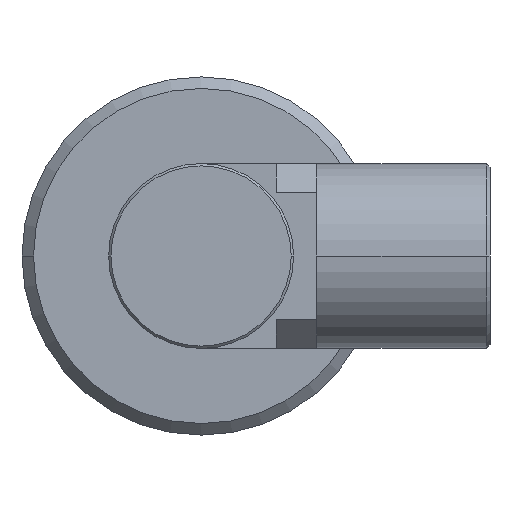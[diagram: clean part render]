
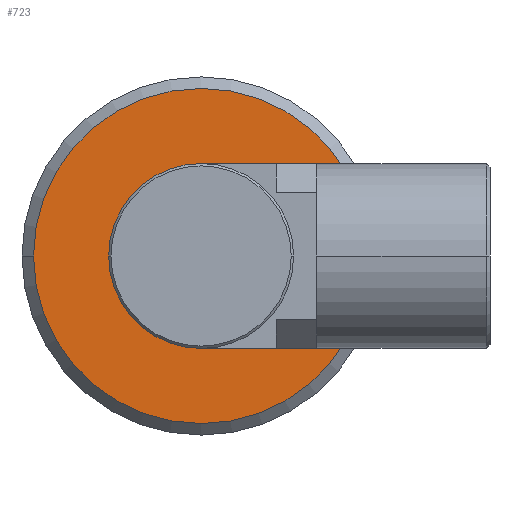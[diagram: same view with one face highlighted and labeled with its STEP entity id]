
A CAD part, left-side view. The second image highlights one B-rep face of the part: STEP entity #723.
In plain terms, the highlighted planar face has unit normal (-1, 0, 0).
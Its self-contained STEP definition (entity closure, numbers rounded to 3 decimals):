
#16 = FACE_OUTER_BOUND ( 'NONE', #775, .T. ) ;
#33 = EDGE_CURVE ( 'NONE', #602, #1454, #221, .T. ) ;
#39 = DIRECTION ( 'NONE',  ( 1., 0., 0. ) ) ;
#56 = CARTESIAN_POINT ( 'NONE',  ( -24.026, 14.5, 0. ) ) ;
#153 = AXIS2_PLACEMENT_3D ( 'NONE', #157, #1353, #1477 ) ;
#157 = CARTESIAN_POINT ( 'NONE',  ( -24.026, 0., 0. ) ) ;
#221 = CIRCLE ( 'NONE', #720, 8. ) ;
#237 = DIRECTION ( 'NONE',  ( -1., 0., 0. ) ) ;
#249 = CARTESIAN_POINT ( 'NONE',  ( -24.026, -8., 0. ) ) ;
#363 = EDGE_LOOP ( 'NONE', ( #913, #845 ) ) ;
#418 = DIRECTION ( 'NONE',  ( 0., 1., 0. ) ) ;
#437 = DIRECTION ( 'NONE',  ( -1., 0., 0. ) ) ;
#475 = CARTESIAN_POINT ( 'NONE',  ( -24.026, 0., 0. ) ) ;
#479 = VERTEX_POINT ( 'NONE', #810 ) ;
#560 = DIRECTION ( 'NONE',  ( 0., -1., 0. ) ) ;
#602 = VERTEX_POINT ( 'NONE', #249 ) ;
#609 = DIRECTION ( 'NONE',  ( 0., -1., 0. ) ) ;
#668 = CARTESIAN_POINT ( 'NONE',  ( -24.026, 14.5, 0. ) ) ;
#703 = CARTESIAN_POINT ( 'NONE',  ( -24.026, 0., 0. ) ) ;
#720 = AXIS2_PLACEMENT_3D ( 'NONE', #872, #437, #1373 ) ;
#723 = ADVANCED_FACE ( 'NONE', ( #1229, #16 ), #1078, .F. ) ;
#775 = EDGE_LOOP ( 'NONE', ( #1010, #1075 ) ) ;
#789 = EDGE_CURVE ( 'NONE', #1685, #479, #937, .T. ) ;
#810 = CARTESIAN_POINT ( 'NONE',  ( -24.026, -14.5, 0. ) ) ;
#845 = ORIENTED_EDGE ( 'NONE', *, *, #1117, .F. ) ;
#872 = CARTESIAN_POINT ( 'NONE',  ( -24.026, 0., 0. ) ) ;
#913 = ORIENTED_EDGE ( 'NONE', *, *, #33, .F. ) ;
#917 = AXIS2_PLACEMENT_3D ( 'NONE', #703, #1105, #560 ) ;
#937 = CIRCLE ( 'NONE', #153, 14.5 ) ;
#964 = AXIS2_PLACEMENT_3D ( 'NONE', #475, #237, #609 ) ;
#1010 = ORIENTED_EDGE ( 'NONE', *, *, #789, .T. ) ;
#1044 = AXIS2_PLACEMENT_3D ( 'NONE', #668, #39, #418 ) ;
#1075 = ORIENTED_EDGE ( 'NONE', *, *, #1645, .T. ) ;
#1078 = PLANE ( 'NONE',  #1044 ) ;
#1105 = DIRECTION ( 'NONE',  ( -1., 0., 0. ) ) ;
#1117 = EDGE_CURVE ( 'NONE', #1454, #602, #1282, .T. ) ;
#1229 = FACE_BOUND ( 'NONE', #363, .T. ) ;
#1246 = CIRCLE ( 'NONE', #917, 14.5 ) ;
#1282 = CIRCLE ( 'NONE', #964, 8. ) ;
#1292 = CARTESIAN_POINT ( 'NONE',  ( -24.026, 8., 0. ) ) ;
#1353 = DIRECTION ( 'NONE',  ( -1., 0., 0. ) ) ;
#1373 = DIRECTION ( 'NONE',  ( 0., -1., 0. ) ) ;
#1454 = VERTEX_POINT ( 'NONE', #1292 ) ;
#1477 = DIRECTION ( 'NONE',  ( 0., -1., 0. ) ) ;
#1645 = EDGE_CURVE ( 'NONE', #479, #1685, #1246, .T. ) ;
#1685 = VERTEX_POINT ( 'NONE', #56 ) ;
